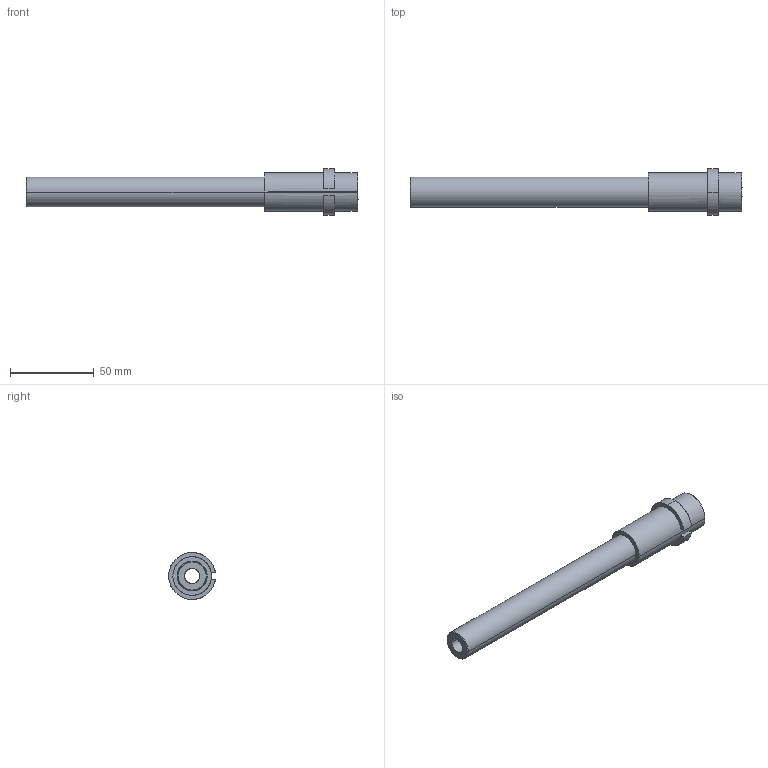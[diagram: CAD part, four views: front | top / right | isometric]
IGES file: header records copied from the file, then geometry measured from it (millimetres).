
Start section: SolidWorks IGES file using analytic representation for surfaces
Global section: file name: M:\solidworks files\firearms cad files\files to send to FUbob @cncguns\Barrel.IGS; native system: SolidWorks 2008; preprocessor: SolidWorks 2008; author: owner; date: 100407.234206; units: millimetre
Bounding box: 198 x 27.81 x 28 mm (x, y, z)
Surface area: 18819.9 mm2 (no closed solid volume)
Topology: 0 solids, 0 shells, 33 faces, 590 edges, 590 vertices
Faces by surface type: revolution 19, bspline 14
